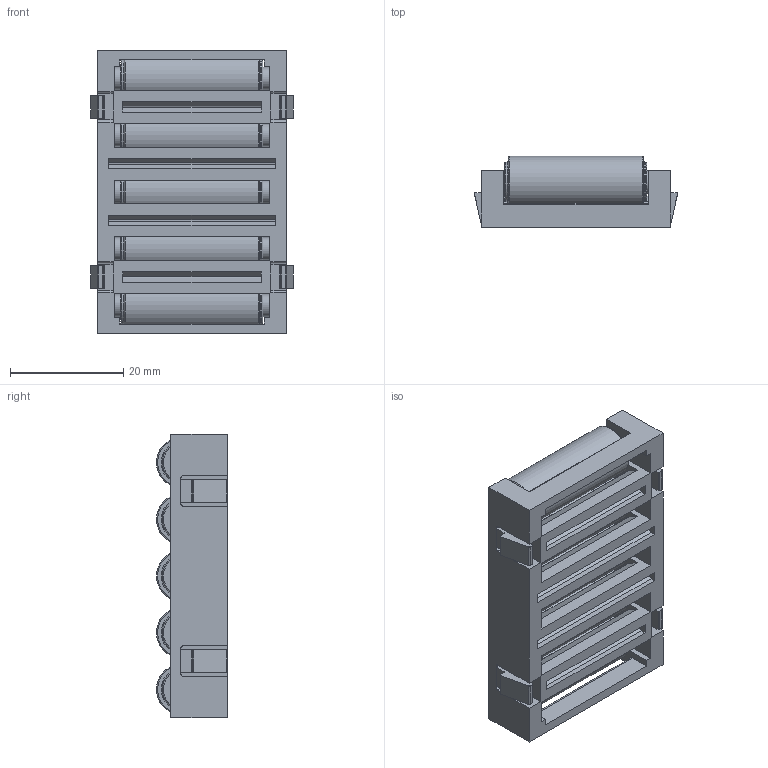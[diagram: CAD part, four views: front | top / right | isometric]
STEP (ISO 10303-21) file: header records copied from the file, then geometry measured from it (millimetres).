
FILE_DESCRIPTION(/* description */ ('STEP AP214'),/* implementation_level */ '2;1');
FILE_NAME(/* name */ '062AER991.50',/* time_stamp */ '2023-08-30T11:12:46+02:00',/* author */ ('License CC BY-ND 4.0'),/* organization */ ('CADENAS'),/* preprocessor_version */ 'ST-DEVELOPER v19.3',/* originating_system */ 'PARTsolutions',/* authorisation */ ' ');
FILE_SCHEMA (('AUTOMOTIVE_DESIGN {1 0 10303 214 3 1 1}'));
Length unit declared in the file: millimetre
Products named in the file (4): 062AER991.50; 062AER991.50_part3; 062AER991.50_part2; 062AER991.50_part1
Assembly tree (11 placements, depth 2):
  062AER991.50
    062AER991.50_part3  x5
    062AER991.50_part2  x5
    062AER991.50_part1
Bounding box: 35.79 x 12.5 x 50 mm (x, y, z)
Volume: 13553.1 mm3; surface area: 14237.9 mm2
Topology: 11 solids, 11 shells, 316 faces, 803 edges, 522 vertices
Faces by surface type: plane 181, cylinder 95, torus 30, cone 10
Full cylindrical faces by diameter (mm): 4 x5, 4.2 x5, 7 x10, 9 x5
Entity records: 7883 total; most frequent: CARTESIAN_POINT 1368, ORIENTED_EDGE 1332, DIRECTION 1328, EDGE_CURVE 666, LINE 508, VECTOR 508, VERTEX_POINT 450, AXIS2_PLACEMENT_3D 410
